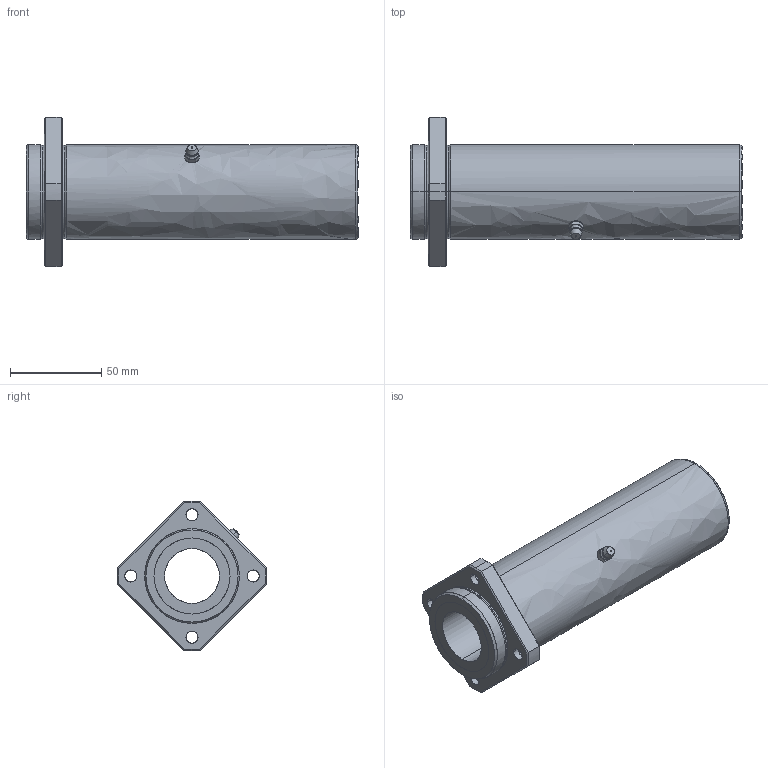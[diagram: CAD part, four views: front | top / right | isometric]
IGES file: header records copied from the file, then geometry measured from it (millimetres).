
Global section: file name: No Iges File Name specified; native system: AutoDesk Inventor R10; preprocessor: AutoDesk Inventor Iges Exporter R10; author: No Author specified; organization: No Organization specified; date: 20101211.163815; units: millimetre
Bounding box: 182 x 81.99 x 82 mm (x, y, z)
Surface area: 55148.5 mm2 (no closed solid volume)
Topology: 0 solids, 0 shells, 116 faces, 709 edges, 707 vertices
Faces by surface type: bspline 116
